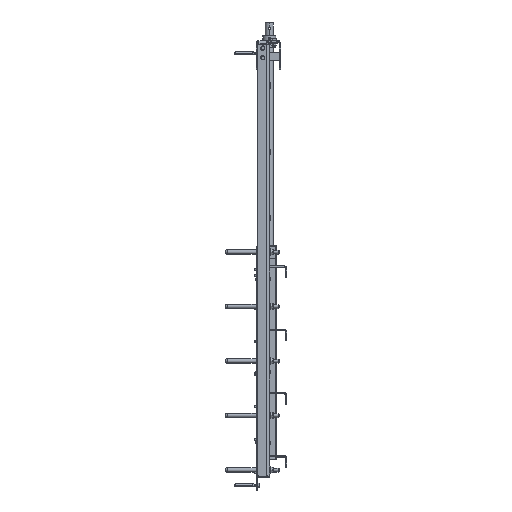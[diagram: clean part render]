
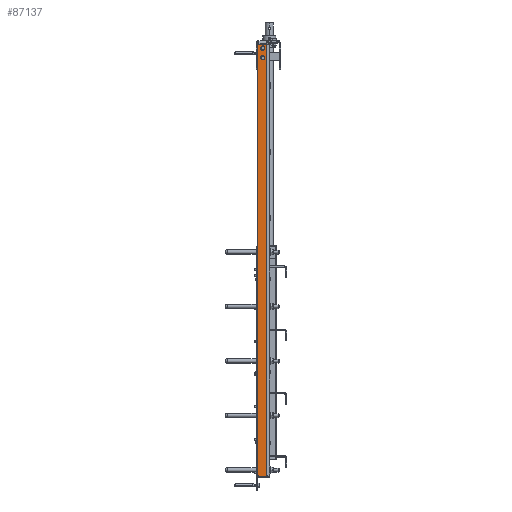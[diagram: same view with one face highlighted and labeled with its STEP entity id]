
A CAD part, top view. The second image highlights one B-rep face of the part: STEP entity #87137.
In plain terms, the highlighted planar face has unit normal (0, 0, 1).
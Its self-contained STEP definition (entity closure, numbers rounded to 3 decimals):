
#1126 = DIRECTION ( 'NONE',  ( 1., 0., 0. ) ) ;
#1575 = EDGE_CURVE ( 'NONE', #13135, #73524, #78540, .T. ) ;
#2299 = CARTESIAN_POINT ( 'NONE',  ( 23.5, 1179., 469. ) ) ;
#6093 = FACE_OUTER_BOUND ( 'NONE', #99581, .T. ) ;
#6457 = CARTESIAN_POINT ( 'NONE',  ( 6., -347., 469. ) ) ;
#7433 = DIRECTION ( 'NONE',  ( 0., 0., 1. ) ) ;
#10442 = VECTOR ( 'NONE', #104750, 1000. ) ;
#11904 = AXIS2_PLACEMENT_3D ( 'NONE', #36003, #14531, #15804 ) ;
#12459 = CARTESIAN_POINT ( 'NONE',  ( 38., 1184., 469. ) ) ;
#12764 = EDGE_CURVE ( 'NONE', #110331, #69144, #81968, .T. ) ;
#12783 = DIRECTION ( 'NONE',  ( 0., 0., 1. ) ) ;
#12904 = ORIENTED_EDGE ( 'NONE', *, *, #12764, .F. ) ;
#13135 = VERTEX_POINT ( 'NONE', #6457 ) ;
#14020 = CARTESIAN_POINT ( 'NONE',  ( 23.5, 1171., 469. ) ) ;
#14531 = DIRECTION ( 'NONE',  ( 0., 0., 1. ) ) ;
#15804 = DIRECTION ( 'NONE',  ( 1., 0., 0. ) ) ;
#20213 = EDGE_CURVE ( 'NONE', #101283, #85369, #111587, .T. ) ;
#22151 = DIRECTION ( 'NONE',  ( 0., -1., 0. ) ) ;
#25068 = DIRECTION ( 'NONE',  ( 1., 0., 0. ) ) ;
#25279 = ORIENTED_EDGE ( 'NONE', *, *, #93124, .F. ) ;
#28254 = PLANE ( 'NONE',  #106442 ) ;
#28436 = VECTOR ( 'NONE', #116777, 1000. ) ;
#29411 = DIRECTION ( 'NONE',  ( 0., 0., 1. ) ) ;
#30230 = VERTEX_POINT ( 'NONE', #77899 ) ;
#30793 = CARTESIAN_POINT ( 'NONE',  ( 23.5, 1129., 469. ) ) ;
#31071 = ORIENTED_EDGE ( 'NONE', *, *, #43806, .T. ) ;
#33842 = CIRCLE ( 'NONE', #115196, 8. ) ;
#34947 = EDGE_CURVE ( 'NONE', #104510, #67173, #88701, .T. ) ;
#36003 = CARTESIAN_POINT ( 'NONE',  ( 9., 1181., 469. ) ) ;
#36768 = AXIS2_PLACEMENT_3D ( 'NONE', #73696, #52187, #73051 ) ;
#37407 = FACE_BOUND ( 'NONE', #104816, .T. ) ;
#38564 = VECTOR ( 'NONE', #93687, 1000. ) ;
#38570 = DIRECTION ( 'NONE',  ( 0., 1., 0. ) ) ;
#39249 = VECTOR ( 'NONE', #38570, 1000. ) ;
#42863 = AXIS2_PLACEMENT_3D ( 'NONE', #127578, #7433, #117782 ) ;
#43426 = CARTESIAN_POINT ( 'NONE',  ( 38., -350., 469. ) ) ;
#43806 = EDGE_CURVE ( 'NONE', #83505, #67173, #64928, .T. ) ;
#45392 = CARTESIAN_POINT ( 'NONE',  ( 5., -350., 469. ) ) ;
#46322 = ORIENTED_EDGE ( 'NONE', *, *, #73529, .F. ) ;
#46552 = DIRECTION ( 'NONE',  ( 0., 0., 1. ) ) ;
#49549 = CIRCLE ( 'NONE', #122559, 8. ) ;
#51771 = CARTESIAN_POINT ( 'NONE',  ( 23.5, 1145., 469. ) ) ;
#52187 = DIRECTION ( 'NONE',  ( 0., 0., 1. ) ) ;
#53104 = EDGE_CURVE ( 'NONE', #92859, #116107, #124170, .T. ) ;
#54083 = ORIENTED_EDGE ( 'NONE', *, *, #88629, .F. ) ;
#55660 = ORIENTED_EDGE ( 'NONE', *, *, #96783, .F. ) ;
#55775 = LINE ( 'NONE', #76645, #38564 ) ;
#64928 = LINE ( 'NONE', #43426, #10442 ) ;
#65323 = CARTESIAN_POINT ( 'NONE',  ( 5., -354., 469. ) ) ;
#67173 = VERTEX_POINT ( 'NONE', #12459 ) ;
#69144 = VERTEX_POINT ( 'NONE', #92553 ) ;
#69148 = ORIENTED_EDGE ( 'NONE', *, *, #71710, .T. ) ;
#71710 = EDGE_CURVE ( 'NONE', #85369, #83505, #55775, .T. ) ;
#73051 = DIRECTION ( 'NONE',  ( 1., 0., 0. ) ) ;
#73524 = VERTEX_POINT ( 'NONE', #128040 ) ;
#73529 = EDGE_CURVE ( 'NONE', #13135, #30230, #107145, .T. ) ;
#73696 = CARTESIAN_POINT ( 'NONE',  ( 9., -347., 469. ) ) ;
#75988 = DIRECTION ( 'NONE',  ( 0., 0., 1. ) ) ;
#76645 = CARTESIAN_POINT ( 'NONE',  ( 4., -354., 469. ) ) ;
#77884 = FACE_BOUND ( 'NONE', #123631, .T. ) ;
#77899 = CARTESIAN_POINT ( 'NONE',  ( 6., 1181., 469. ) ) ;
#78437 = ORIENTED_EDGE ( 'NONE', *, *, #20213, .T. ) ;
#78540 = CIRCLE ( 'NONE', #36768, 3. ) ;
#78902 = CARTESIAN_POINT ( 'NONE',  ( 44., 1184., 469. ) ) ;
#79079 = CARTESIAN_POINT ( 'NONE',  ( 23.5, 1171., 469. ) ) ;
#81968 = CIRCLE ( 'NONE', #109048, 8. ) ;
#82553 = VECTOR ( 'NONE', #22151, 1000. ) ;
#83505 = VERTEX_POINT ( 'NONE', #87088 ) ;
#85151 = DIRECTION ( 'NONE',  ( 1., 0., 0. ) ) ;
#85369 = VERTEX_POINT ( 'NONE', #65323 ) ;
#86294 = DIRECTION ( 'NONE',  ( 1., 0., 0. ) ) ;
#87088 = CARTESIAN_POINT ( 'NONE',  ( 38., -354., 469. ) ) ;
#87137 = ADVANCED_FACE ( 'NONE', ( #77884, #37407, #6093 ), #28254, .T. ) ;
#87710 = CARTESIAN_POINT ( 'NONE',  ( 48., -350., 469. ) ) ;
#88629 = EDGE_CURVE ( 'NONE', #69144, #110331, #33842, .T. ) ;
#88701 = LINE ( 'NONE', #78902, #28436 ) ;
#91006 = ORIENTED_EDGE ( 'NONE', *, *, #34947, .F. ) ;
#92553 = CARTESIAN_POINT ( 'NONE',  ( 23.5, 1163., 469. ) ) ;
#92859 = VERTEX_POINT ( 'NONE', #51771 ) ;
#92949 = VECTOR ( 'NONE', #1126, 1000. ) ;
#93124 = EDGE_CURVE ( 'NONE', #101283, #73524, #120004, .T. ) ;
#93687 = DIRECTION ( 'NONE',  ( 1., 0., 0. ) ) ;
#96783 = EDGE_CURVE ( 'NONE', #116107, #92859, #49549, .T. ) ;
#98028 = CARTESIAN_POINT ( 'NONE',  ( 6., 1184., 469. ) ) ;
#99581 = EDGE_LOOP ( 'NONE', ( #46322, #118519, #25279, #78437, #69148, #31071, #91006, #120571 ) ) ;
#101283 = VERTEX_POINT ( 'NONE', #45392 ) ;
#102266 = CARTESIAN_POINT ( 'NONE',  ( 23.5, 1137., 469. ) ) ;
#104217 = DIRECTION ( 'NONE',  ( 1., 0., 0. ) ) ;
#104510 = VERTEX_POINT ( 'NONE', #104688 ) ;
#104688 = CARTESIAN_POINT ( 'NONE',  ( 9., 1184., 469. ) ) ;
#104750 = DIRECTION ( 'NONE',  ( 0., 1., 0. ) ) ;
#104816 = EDGE_LOOP ( 'NONE', ( #12904, #54083 ) ) ;
#106442 = AXIS2_PLACEMENT_3D ( 'NONE', #87710, #46552, #85151 ) ;
#107145 = LINE ( 'NONE', #98028, #39249 ) ;
#109048 = AXIS2_PLACEMENT_3D ( 'NONE', #79079, #29411, #86294 ) ;
#110331 = VERTEX_POINT ( 'NONE', #2299 ) ;
#110806 = CARTESIAN_POINT ( 'NONE',  ( 4., -350., 469. ) ) ;
#111587 = LINE ( 'NONE', #120772, #82553 ) ;
#115196 = AXIS2_PLACEMENT_3D ( 'NONE', #14020, #75988, #25068 ) ;
#116107 = VERTEX_POINT ( 'NONE', #30793 ) ;
#116124 = CIRCLE ( 'NONE', #11904, 3. ) ;
#116777 = DIRECTION ( 'NONE',  ( 1., 0., 0. ) ) ;
#117782 = DIRECTION ( 'NONE',  ( 1., 0., 0. ) ) ;
#118519 = ORIENTED_EDGE ( 'NONE', *, *, #1575, .T. ) ;
#120004 = LINE ( 'NONE', #110806, #92949 ) ;
#120312 = ORIENTED_EDGE ( 'NONE', *, *, #53104, .F. ) ;
#120571 = ORIENTED_EDGE ( 'NONE', *, *, #126576, .T. ) ;
#120772 = CARTESIAN_POINT ( 'NONE',  ( 5., -350., 469. ) ) ;
#122559 = AXIS2_PLACEMENT_3D ( 'NONE', #102266, #12783, #104217 ) ;
#123631 = EDGE_LOOP ( 'NONE', ( #120312, #55660 ) ) ;
#124170 = CIRCLE ( 'NONE', #42863, 8. ) ;
#126576 = EDGE_CURVE ( 'NONE', #104510, #30230, #116124, .T. ) ;
#127578 = CARTESIAN_POINT ( 'NONE',  ( 23.5, 1137., 469. ) ) ;
#128040 = CARTESIAN_POINT ( 'NONE',  ( 9., -350., 469. ) ) ;
